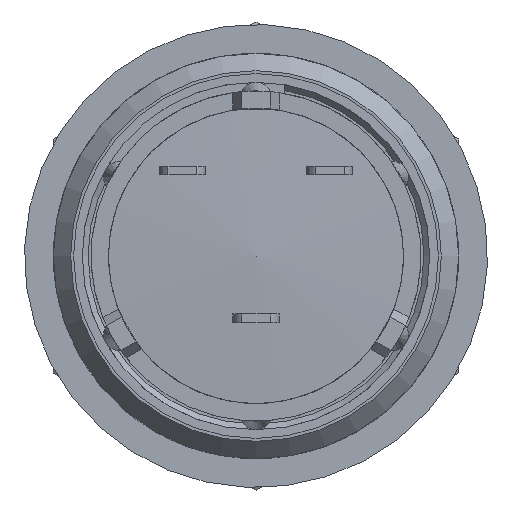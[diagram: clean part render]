
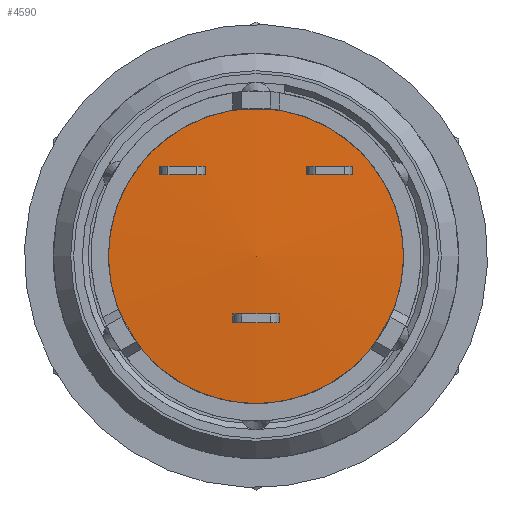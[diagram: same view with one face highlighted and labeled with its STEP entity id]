
A CAD part, left-side view. The second image highlights one B-rep face of the part: STEP entity #4590.
In plain terms, the highlighted spherical face has radius 60 mm.
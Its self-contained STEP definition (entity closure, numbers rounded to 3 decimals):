
#26=SPHERICAL_SURFACE('',#5466,60.);
#601=CIRCLE('',#5467,5.1);
#1621=ORIENTED_EDGE('',*,*,#2475,.T.);
#2475=EDGE_CURVE('',#2988,#2988,#601,.T.);
#2988=VERTEX_POINT('',#9301);
#3794=EDGE_LOOP('',(#1621));
#4155=FACE_BOUND('',#3794,.T.);
#4590=ADVANCED_FACE('',(#4155),#26,.T.);
#5466=AXIS2_PLACEMENT_3D('',#9299,#6351,#6352);
#5467=AXIS2_PLACEMENT_3D('',#9300,#6353,#6354);
#6351=DIRECTION('',(-1.,0.,0.));
#6352=DIRECTION('',(0.,1.,0.));
#6353=DIRECTION('',(-1.,0.,0.));
#6354=DIRECTION('',(0.,0.,1.));
#9299=CARTESIAN_POINT('',(50.883,0.,0.));
#9300=CARTESIAN_POINT('',(-8.9,0.,0.));
#9301=CARTESIAN_POINT('',(-8.9,0.,5.1));
